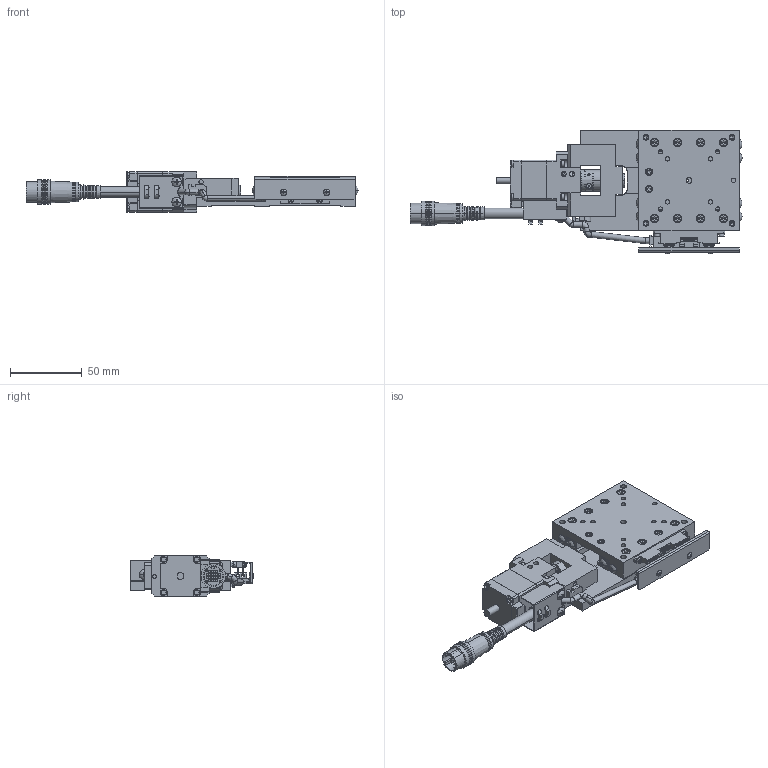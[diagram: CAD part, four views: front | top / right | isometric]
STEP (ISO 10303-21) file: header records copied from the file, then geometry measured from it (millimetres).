
FILE_DESCRIPTION (( 'STEP AP203' ), '1' );
FILE_NAME ('XA07F-R202.STEP', '2019-02-20T07:46:45', ( '' ), ( '' ), 'SwSTEP 2.0', 'SolidWorks 2018', '' );
FILE_SCHEMA (( 'CONFIG_CONTROL_DESIGN' ));
Length unit declared in the file: millimetre
Products named in the file (6): XA07F-R202; base-Part-1; base-Part-2; table; base-Part-3; base
Assembly tree (5 placements, depth 3):
  XA07F-R202
    base
      base-Part-1
      base-Part-2
      base-Part-3
    table
Bounding box: 231.39 x 86.18 x 28 mm (x, y, z)
Volume: 168007.3 mm3; surface area: 70929 mm2
Topology: 4 solids, 4 shells, 2166 faces, 5415 edges, 3321 vertices
Faces by surface type: plane 1260, cylinder 539, cone 297, torus 40, sphere 30
Entity records: 65195 total; most frequent: CARTESIAN_POINT 11981, DIRECTION 11425, ORIENTED_EDGE 10634, EDGE_CURVE 5317, AXIS2_PLACEMENT_3D 4073, VERTEX_POINT 3315, VECTOR 3279, LINE 3279
